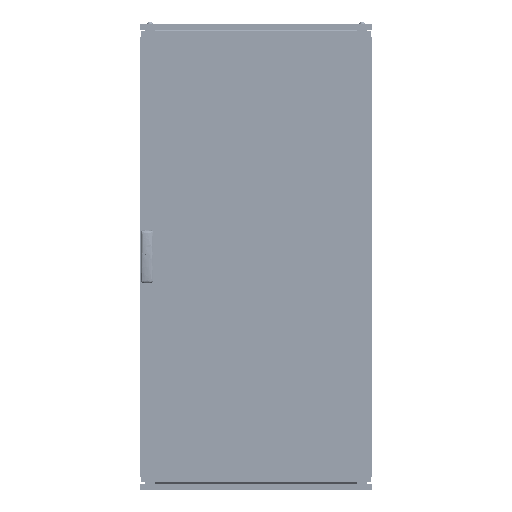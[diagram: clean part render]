
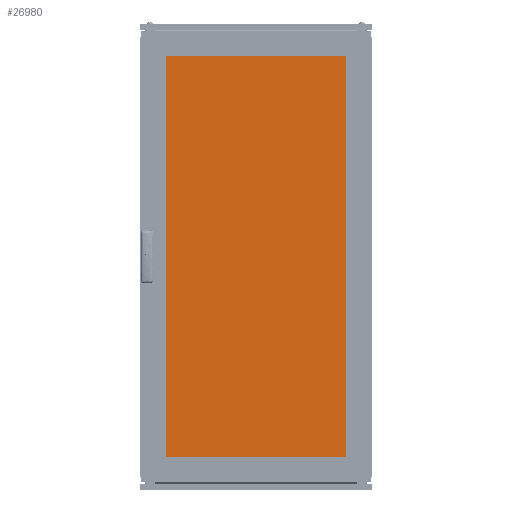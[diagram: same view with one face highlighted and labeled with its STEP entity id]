
A CAD part, top view. The second image highlights one B-rep face of the part: STEP entity #26980.
In plain terms, the highlighted planar face has unit normal (0, 0, 1).
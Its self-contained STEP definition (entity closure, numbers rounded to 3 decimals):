
#6674 = DIRECTION ( 'NONE',  ( 1., 0., 0. ) ) ;
#7844 = CARTESIAN_POINT ( 'NONE',  ( 0., 0., 5. ) ) ;
#9741 = DIRECTION ( 'NONE',  ( -1., 0., 0. ) ) ;
#26980 = ADVANCED_FACE ( 'NONE', ( #89942 ), #165876, .F. ) ;
#35893 = CARTESIAN_POINT ( 'NONE',  ( 330., -710., 5. ) ) ;
#36934 = VERTEX_POINT ( 'NONE', #145105 ) ;
#37313 = ORIENTED_EDGE ( 'NONE', *, *, #66795, .T. ) ;
#39920 = LINE ( 'NONE', #102266, #165973 ) ;
#51600 = DIRECTION ( 'NONE',  ( 0., 1., 0. ) ) ;
#52602 = LINE ( 'NONE', #98328, #76024 ) ;
#66795 = EDGE_CURVE ( 'NONE', #99414, #36934, #129610, .T. ) ;
#76024 = VECTOR ( 'NONE', #160778, 1000. ) ;
#89942 = FACE_OUTER_BOUND ( 'NONE', #175227, .T. ) ;
#98328 = CARTESIAN_POINT ( 'NONE',  ( -330., -710., 5. ) ) ;
#99414 = VERTEX_POINT ( 'NONE', #35893 ) ;
#102266 = CARTESIAN_POINT ( 'NONE',  ( -330., -710., 5. ) ) ;
#104333 = CARTESIAN_POINT ( 'NONE',  ( -330., 710., 5. ) ) ;
#106712 = ORIENTED_EDGE ( 'NONE', *, *, #187515, .T. ) ;
#118905 = LINE ( 'NONE', #104333, #146499 ) ;
#129610 = LINE ( 'NONE', #193992, #142201 ) ;
#142201 = VECTOR ( 'NONE', #51600, 1000. ) ;
#145105 = CARTESIAN_POINT ( 'NONE',  ( 330., 710., 5. ) ) ;
#146499 = VECTOR ( 'NONE', #9741, 1000. ) ;
#160778 = DIRECTION ( 'NONE',  ( 0., -1., 0. ) ) ;
#161353 = ORIENTED_EDGE ( 'NONE', *, *, #185165, .T. ) ;
#161915 = ORIENTED_EDGE ( 'NONE', *, *, #186233, .T. ) ;
#165876 = PLANE ( 'NONE',  #180400 ) ;
#165973 = VECTOR ( 'NONE', #6674, 1000. ) ;
#169975 = DIRECTION ( 'NONE',  ( -1., 0., 0. ) ) ;
#170599 = CARTESIAN_POINT ( 'NONE',  ( -330., 710., 5. ) ) ;
#174214 = VERTEX_POINT ( 'NONE', #199497 ) ;
#175227 = EDGE_LOOP ( 'NONE', ( #37313, #106712, #161353, #161915 ) ) ;
#180400 = AXIS2_PLACEMENT_3D ( 'NONE', #7844, #198006, #169975 ) ;
#185165 = EDGE_CURVE ( 'NONE', #188116, #174214, #52602, .T. ) ;
#186233 = EDGE_CURVE ( 'NONE', #174214, #99414, #39920, .T. ) ;
#187515 = EDGE_CURVE ( 'NONE', #36934, #188116, #118905, .T. ) ;
#188116 = VERTEX_POINT ( 'NONE', #170599 ) ;
#193992 = CARTESIAN_POINT ( 'NONE',  ( 330., -710., 5. ) ) ;
#198006 = DIRECTION ( 'NONE',  ( 0., 0., -1. ) ) ;
#199497 = CARTESIAN_POINT ( 'NONE',  ( -330., -710., 5. ) ) ;
